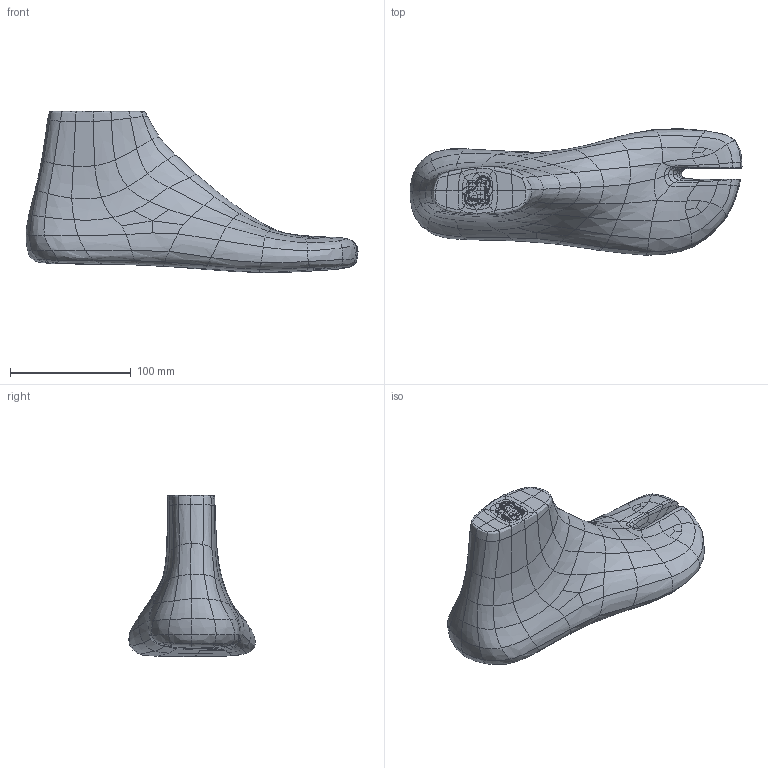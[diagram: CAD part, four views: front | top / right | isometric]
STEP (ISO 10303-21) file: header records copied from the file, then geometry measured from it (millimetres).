
FILE_DESCRIPTION(/* description */ (''),/* implementation_level */ '2;1');
FILE_NAME(License: CC BY-NC-ND 4.0 Statement: This work is licensed under a Creative Commons Attribution-NonCommercial-NoDerivatives 4.0 International License. Link: https://creativecommons.org/licenses/by-nc-nd/4.0/);
FILE_SCHEMA (('CONFIG_CONTROL_DESIGN'));
Length unit declared in the file: millimetre
Products named in the file (1): Document
Bounding box: 275.49 x 104.99 x 133.66 mm (x, y, z)
Volume: 1161044.5 mm3; surface area: 80995.2 mm2
Topology: 1 solids, 1 shells, 676 faces, 1397 edges, 723 vertices
Faces by surface type: bspline 591, plane 82, cylinder 3
Entity records: 45497 total; most frequent: CARTESIAN_POINT 36220, ORIENTED_EDGE 2794, EDGE_CURVE 1397, B_SPLINE_CURVE_WITH_KNOTS 1397, VERTEX_POINT 723, ADVANCED_FACE 676, FACE_OUTER_BOUND 676, EDGE_LOOP 676
